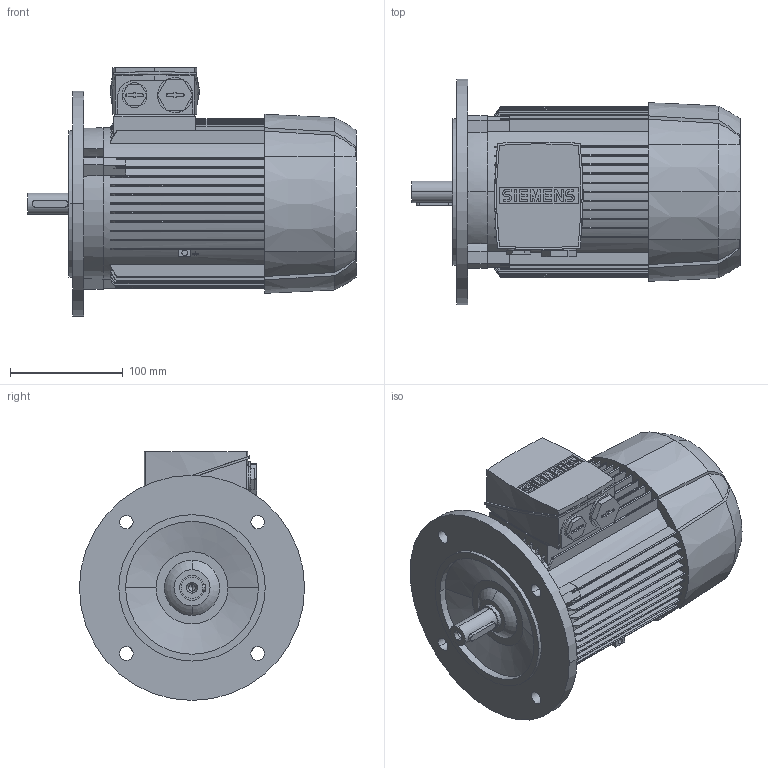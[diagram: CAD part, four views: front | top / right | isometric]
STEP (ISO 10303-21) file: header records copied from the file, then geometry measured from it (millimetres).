
FILE_DESCRIPTION(('STEP AP214'),'1');
FILE_NAME('cctmp_F0E1BB1A-332B-4C21-A1B6-C4D134DEC91E_2024_02_04_04_04_47_0057..stp','2024-02-04T04:04:47',('SIEMENS A&D'),('CADClick - www.CADClick.com'),'Spatial InterOp 3D',' ','unknown authorization');
FILE_SCHEMA(('AUTOMOTIVE_DESIGN'));
Length unit declared in the file: millimetre
Products named in the file (1): 2024_02_04_04_04_47_0057
Bounding box: 292 x 200 x 221 mm (x, y, z)
Volume: 4477455.2 mm3; surface area: 304352.6 mm2
Topology: 1 solids, 1 shells, 606 faces, 1706 edges, 1120 vertices
Faces by surface type: plane 367, cylinder 163, torus 56, cone 20
Entity records: 26148 total; most frequent: CARTESIAN_POINT 5552, ORIENTED_EDGE 3384, DIRECTION 3221, EDGE_CURVE 1692, VERTEX_POINT 1120, AXIS2_PLACEMENT_3D 1098, LINE 1025, VECTOR 1025
